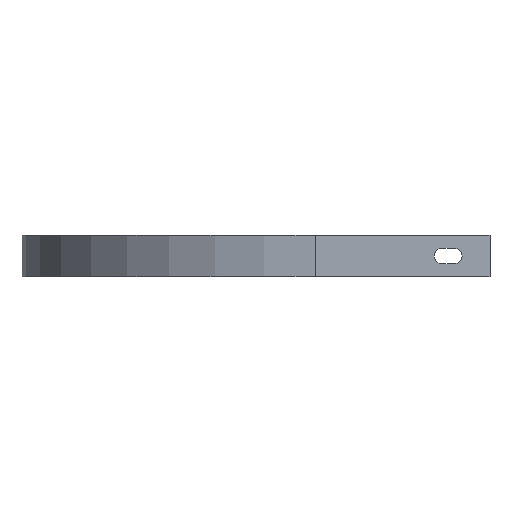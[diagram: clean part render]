
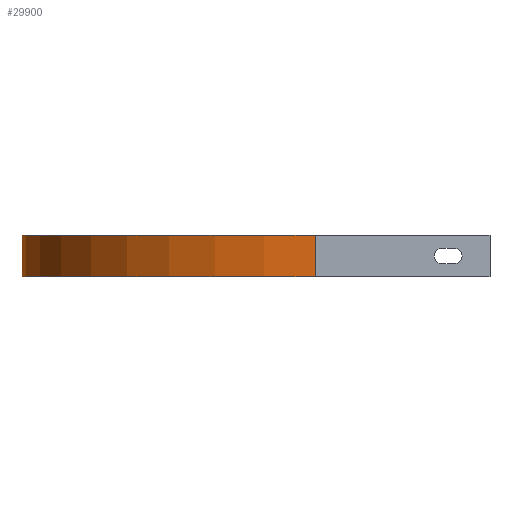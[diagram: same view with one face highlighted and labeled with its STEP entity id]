
A CAD part, left-side view. The second image highlights one B-rep face of the part: STEP entity #29900.
In plain terms, the highlighted cylindrical face has radius 210 mm (diameter 420 mm), a partial arc.
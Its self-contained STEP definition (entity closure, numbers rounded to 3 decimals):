
#27850=CARTESIAN_POINT('',(-210.,0.,-30.));
#27860=VERTEX_POINT('',#27850);
#28250=CARTESIAN_POINT('',(0.,210.,-30.));
#28260=VERTEX_POINT('',#28250);
#28290=CARTESIAN_POINT('',(0.,0.,-30.));
#28300=DIRECTION('',(0.,0.,1.));
#28310=DIRECTION('',(1.,0.,0.));
#28320=AXIS2_PLACEMENT_3D('',#28290,#28300,#28310);
#28330=CIRCLE('',#28320,210.);
#28340=EDGE_CURVE('',#28260,#27860,#28330,.T.);
#28440=CARTESIAN_POINT('',(0.,0.,0.));
#28450=DIRECTION('',(0.,0.,1.));
#28460=DIRECTION('',(1.,0.,0.));
#28470=AXIS2_PLACEMENT_3D('',#28440,#28450,#28460);
#28480=CIRCLE('',#28470,210.);
#28490=CARTESIAN_POINT('',(0.,210.,0.));
#28500=VERTEX_POINT('',#28490);
#28510=CARTESIAN_POINT('',(-210.,0.,0.));
#28520=VERTEX_POINT('',#28510);
#28530=EDGE_CURVE('',#28500,#28520,#28480,.T.);
#29270=CARTESIAN_POINT('',(0.,210.,0.));
#29280=DIRECTION('',(0.,0.,-1.));
#29290=VECTOR('',#29280,1.);
#29300=LINE('',#29270,#29290);
#29310=EDGE_CURVE('',#28500,#28260,#29300,.T.);
#29740=CARTESIAN_POINT('',(0.,0.,0.));
#29750=DIRECTION('',(0.,0.,1.));
#29760=DIRECTION('',(1.,0.,0.));
#29770=AXIS2_PLACEMENT_3D('',#29740,#29750,#29760);
#29780=CYLINDRICAL_SURFACE('',#29770,210.);
#29790=ORIENTED_EDGE('',*,*,#28530,.F.);
#29800=CARTESIAN_POINT('',(-210.,0.,0.));
#29810=DIRECTION('',(0.,0.,-1.));
#29820=VECTOR('',#29810,1.);
#29830=LINE('',#29800,#29820);
#29840=EDGE_CURVE('',#28520,#27860,#29830,.T.);
#29850=ORIENTED_EDGE('',*,*,#29840,.F.);
#29860=ORIENTED_EDGE('',*,*,#28340,.T.);
#29870=ORIENTED_EDGE('',*,*,#29310,.T.);
#29880=EDGE_LOOP('',(#29870,#29860,#29850,#29790));
#29890=FACE_OUTER_BOUND('',#29880,.T.);
#29900=ADVANCED_FACE('',(#29890),#29780,.T.);
